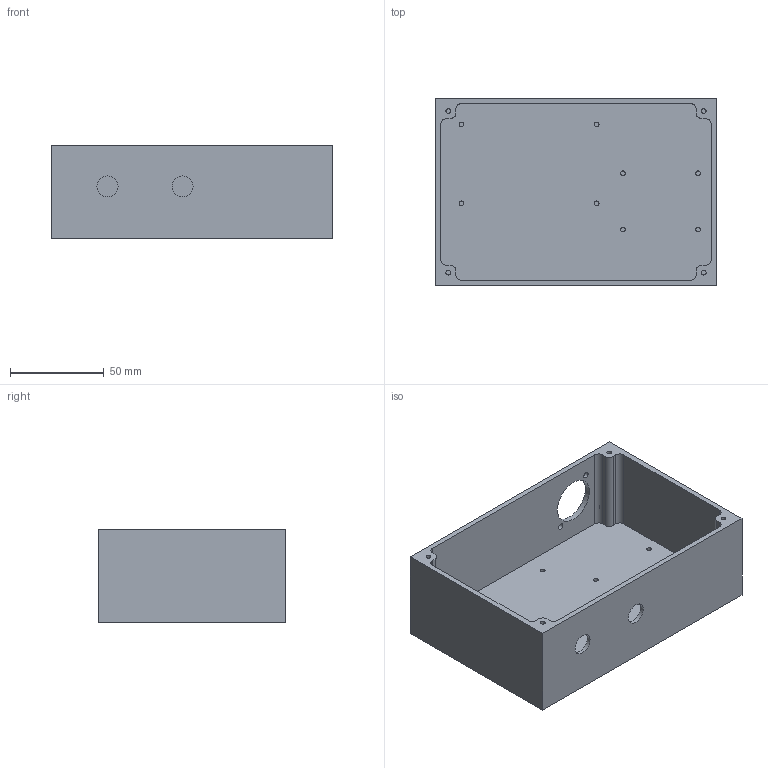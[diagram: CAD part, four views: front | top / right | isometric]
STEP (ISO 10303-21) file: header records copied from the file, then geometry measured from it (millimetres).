
FILE_DESCRIPTION(('Open CASCADE Model'),'2;1');
FILE_NAME('Open CASCADE Shape Model','2026-10-05T13:12:06',('Author'),( 'Open CASCADE'),'Open CASCADE STEP processor 7.8','Open CASCADE 7.8' ,'Unknown');
FILE_SCHEMA(('AUTOMOTIVE_DESIGN { 1 0 10303 214 1 1 1 1 }'));
Length unit declared in the file: millimetre
Products named in the file (1): Open CASCADE STEP translator 7.8 1
Bounding box: 150 x 100 x 50 mm (x, y, z)
Volume: 150034 mm3; surface area: 75571.1 mm2
Topology: 1 solids, 1 shells, 66 faces, 144 edges, 96 vertices
Faces by surface type: plane 34, cylinder 32
Full cylindrical faces by diameter (mm): 2.5 x12, 3.2 x3, 11.2 x2, 18 x2, 24 x1
Entity records: 3782 total; most frequent: CARTESIAN_POINT 691, DIRECTION 614, LINE 304, VECTOR 304, ORIENTED_EDGE 288, PCURVE 288, DEFINITIONAL_REPRESENTATION 288, EDGE_CURVE 144
